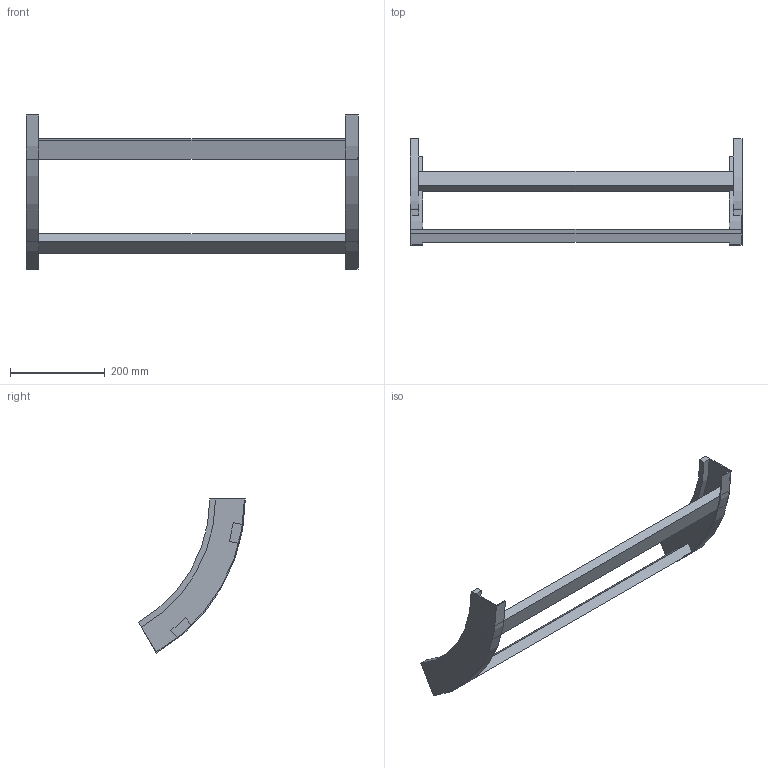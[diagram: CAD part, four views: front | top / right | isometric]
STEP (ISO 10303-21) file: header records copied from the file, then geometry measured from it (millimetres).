
FILE_DESCRIPTION (( 'STEP AP214' ), '1' );
FILE_NAME ('B2X40B3C700XX.step', '2025-03-20T10:18:04', ( '' ), ( '' ), 'SwSTEP 2.0', 'SolidWorks 2023', '' );
FILE_SCHEMA (( 'AUTOMOTIVE_DESIGN' ));
Length unit declared in the file: millimetre
Products named in the file (3): B2X40B3C700XX; B2_LONGH.SALITA_60°_H75_R300; TRAVERSINO_700
Assembly tree (4 placements, depth 2):
  B2X40B3C700XX
    B2_LONGH.SALITA_60°_H75_R300  x2
    TRAVERSINO_700  x2
Bounding box: 700 x 225 x 324.76 mm (x, y, z)
Volume: 1395763.8 mm3; surface area: 341769.7 mm2
Topology: 4 solids, 4 shells, 32 faces, 72 edges, 48 vertices
Faces by surface type: plane 24, cylinder 8
Entity records: 552 total; most frequent: DIRECTION 90, CARTESIAN_POINT 83, ORIENTED_EDGE 72, EDGE_CURVE 36, AXIS2_PLACEMENT_3D 31, LINE 28, VECTOR 28, VERTEX_POINT 24
